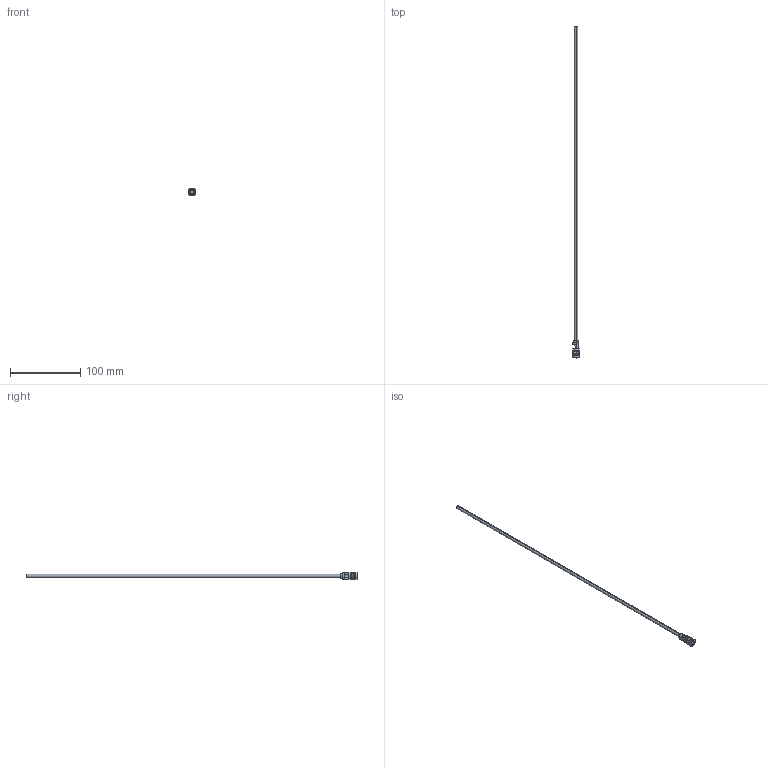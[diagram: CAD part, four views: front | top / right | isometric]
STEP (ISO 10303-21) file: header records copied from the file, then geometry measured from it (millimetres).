
FILE_DESCRIPTION (( 'STEP AP203' ), '1' );
FILE_NAME ('RF-10F_5 x450.STEP', '2015-11-20T08:30:45', ( 'Balzi' ), ( '' ), 'SwSTEP 2.0', 'SolidWorks 2015', '' );
FILE_SCHEMA (( 'CONFIG_CONTROL_DESIGN' ));
Length unit declared in the file: millimetre
Products named in the file (1): RF-10F_5 x450
Bounding box: 11.3 x 472.5 x 11.3 mm (x, y, z)
Volume: 2851.8 mm3; surface area: 14737.9 mm2
Topology: 1 solids, 1 shells, 71 faces, 164 edges, 102 vertices
Faces by surface type: plane 26, cylinder 25, cone 12, torus 8
Entity records: 2114 total; most frequent: DIRECTION 385, CARTESIAN_POINT 357, ORIENTED_EDGE 328, EDGE_CURVE 164, AXIS2_PLACEMENT_3D 154, VERTEX_POINT 102, CIRCLE 82, EDGE_LOOP 80
